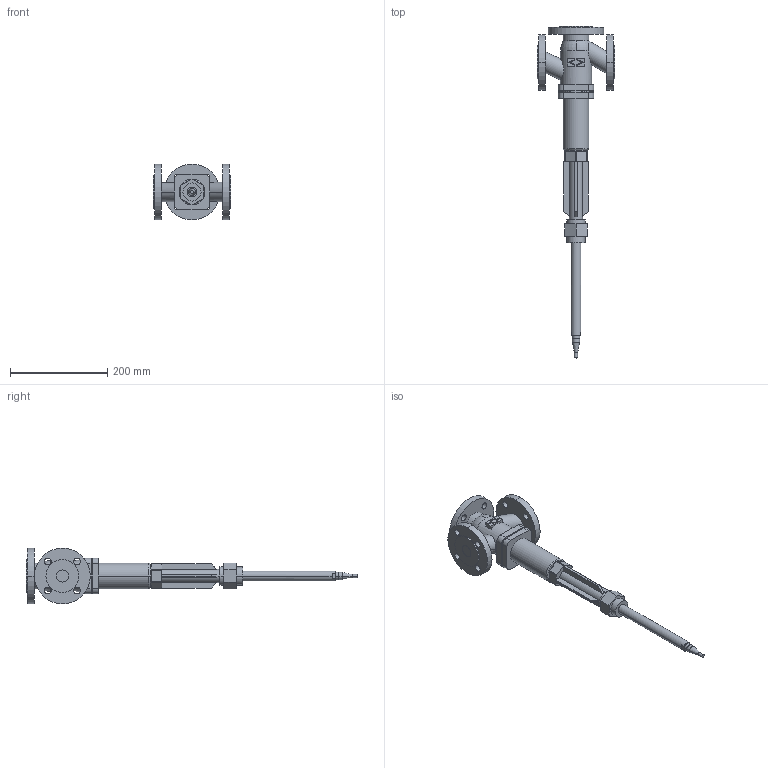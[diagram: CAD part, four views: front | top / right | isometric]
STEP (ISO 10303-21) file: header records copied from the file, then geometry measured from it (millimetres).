
FILE_DESCRIPTION(('CoCreate Modeling STEP Export'),'2;1');
FILE_NAME('c000004786.stp','2011-09-23T10:21:14',(''),(''),'CoCreate Modeling STEP processor for AP214 (Solid Model)','CoCreate Modeling 17.0 01-Apr-2010 (C) Parametric Technology GmbH','');
FILE_SCHEMA(('AUTOMOTIVE_DESIGN { 1 0 10303 214 1 1 1 1 }'));
Length unit declared in the file: millimetre
Products named in the file (1): 1
Bounding box: 160 x 684.44 x 115 mm (x, y, z)
Volume: 1498426.4 mm3; surface area: 192635.2 mm2
Topology: 1 solids, 1 shells, 188 faces, 466 edges, 304 vertices
Faces by surface type: cylinder 88, plane 88, cone 8, torus 4
Entity records: 6740 total; most frequent: CARTESIAN_POINT 1020, ORIENTED_EDGE 932, DIRECTION 790, EDGE_CURVE 466, VERTEX_POINT 304, AXIS2_PLACEMENT_3D 273, VECTOR 244, LINE 244
